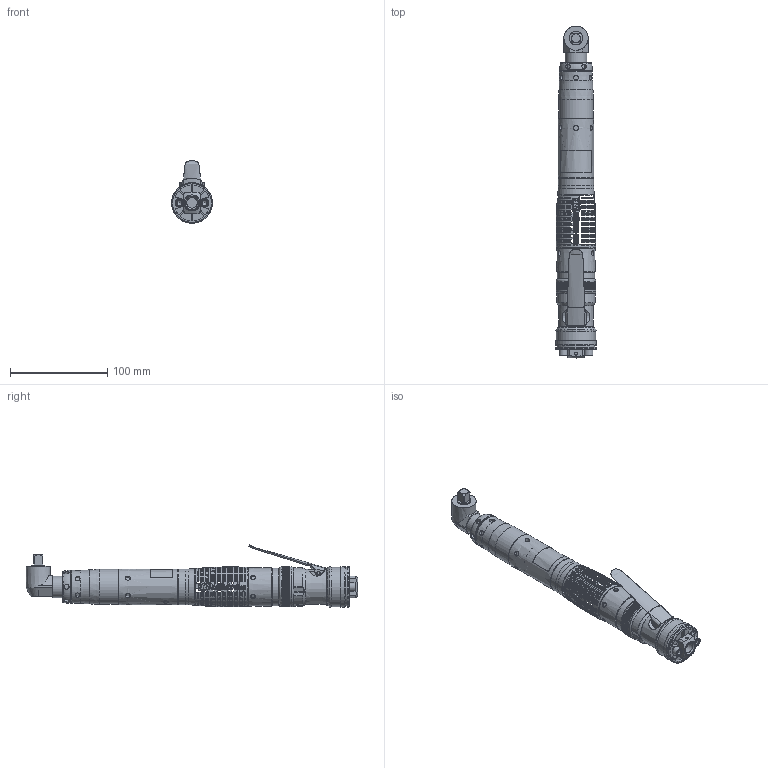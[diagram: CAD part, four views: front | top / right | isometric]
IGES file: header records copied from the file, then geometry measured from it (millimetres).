
Global section: file name: C:\Documents and Settings\jyoung\Desktop\QA4AALS015NP25S06.igs; native system: Unigraphics Version X V2.0; preprocessor: Unigraphics NX IGES V2.0; date: 20051011.095737; units: millimetre
Bounding box: 42 x 341.95 x 64.44 mm (x, y, z)
Surface area: 69095.4 mm2 (no closed solid volume)
Topology: 0 solids, 1 shells, 2873 faces, 29731 edges, 29591 vertices
Faces by surface type: extrusion 1182, revolution 956, bspline 735
